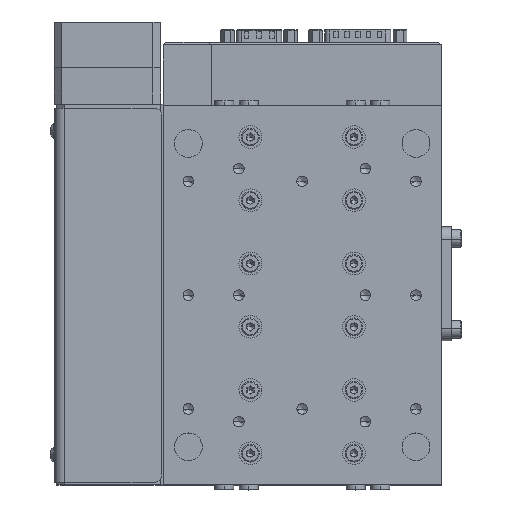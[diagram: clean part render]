
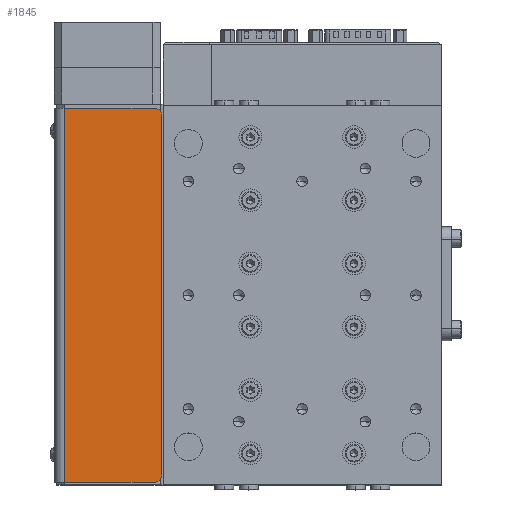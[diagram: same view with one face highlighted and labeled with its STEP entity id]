
A CAD part, top view. The second image highlights one B-rep face of the part: STEP entity #1845.
In plain terms, the highlighted planar face has unit normal (0, 0, 1).
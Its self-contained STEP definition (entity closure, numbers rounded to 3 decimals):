
#386 = ORIENTED_EDGE ( 'NONE', *, *, #51272, .F. ) ;
#1026 = ORIENTED_EDGE ( 'NONE', *, *, #45390, .F. ) ;
#1677 = CARTESIAN_POINT ( 'NONE',  ( -94., -133.391, 41.1 ) ) ;
#1845 = ADVANCED_FACE ( 'NONE', ( #7844 ), #43586, .F. ) ;
#3528 = LINE ( 'NONE', #41320, #36305 ) ;
#4087 = VERTEX_POINT ( 'NONE', #41196 ) ;
#4611 = CARTESIAN_POINT ( 'NONE',  ( -94., -133.391, 41.1 ) ) ;
#6754 = EDGE_CURVE ( 'NONE', #55000, #34645, #3528, .T. ) ;
#7795 = ORIENTED_EDGE ( 'NONE', *, *, #45632, .T. ) ;
#7844 = FACE_OUTER_BOUND ( 'NONE', #32261, .T. ) ;
#8050 = VECTOR ( 'NONE', #35324, 1000. ) ;
#8919 = EDGE_CURVE ( 'NONE', #34645, #48581, #13041, .T. ) ;
#8953 = DIRECTION ( 'NONE',  ( -1., 0., 0. ) ) ;
#9088 = ORIENTED_EDGE ( 'NONE', *, *, #6754, .T. ) ;
#9449 = VERTEX_POINT ( 'NONE', #48599 ) ;
#9910 = DIRECTION ( 'NONE',  ( -1., 0., 0. ) ) ;
#13041 = CIRCLE ( 'NONE', #46314, 3. ) ;
#13420 = EDGE_CURVE ( 'NONE', #54723, #48581, #28498, .T. ) ;
#13545 = CARTESIAN_POINT ( 'NONE',  ( -94., 74., 41.1 ) ) ;
#17689 = CARTESIAN_POINT ( 'NONE',  ( -58.5, 74., 41.1 ) ) ;
#19670 = DIRECTION ( 'NONE',  ( 0., 1., 0. ) ) ;
#22453 = DIRECTION ( 'NONE',  ( 0., 0., -1. ) ) ;
#22875 = CIRCLE ( 'NONE', #35084, 3. ) ;
#23473 = LINE ( 'NONE', #40293, #51656 ) ;
#25019 = CARTESIAN_POINT ( 'NONE',  ( -55.5, 71., 41.1 ) ) ;
#25471 = DIRECTION ( 'NONE',  ( -1., 0., 0. ) ) ;
#26763 = DIRECTION ( 'NONE',  ( -1., 0., 0. ) ) ;
#28498 = LINE ( 'NONE', #13545, #8050 ) ;
#32261 = EDGE_LOOP ( 'NONE', ( #386, #7795, #9088, #38873, #53543, #1026 ) ) ;
#34595 = VECTOR ( 'NONE', #41606, 1000. ) ;
#34645 = VERTEX_POINT ( 'NONE', #25019 ) ;
#35084 = AXIS2_PLACEMENT_3D ( 'NONE', #47191, #52185, #25471 ) ;
#35208 = DIRECTION ( 'NONE',  ( 0., 0., 1. ) ) ;
#35324 = DIRECTION ( 'NONE',  ( 1., 0., 0. ) ) ;
#36305 = VECTOR ( 'NONE', #19670, 1000. ) ;
#37505 = CARTESIAN_POINT ( 'NONE',  ( -94., 74., 41.1 ) ) ;
#38873 = ORIENTED_EDGE ( 'NONE', *, *, #8919, .T. ) ;
#40072 = LINE ( 'NONE', #1677, #34595 ) ;
#40293 = CARTESIAN_POINT ( 'NONE',  ( -94., -74., 41.1 ) ) ;
#41196 = CARTESIAN_POINT ( 'NONE',  ( -94., -74., 41.1 ) ) ;
#41320 = CARTESIAN_POINT ( 'NONE',  ( -55.5, -133.391, 41.1 ) ) ;
#41606 = DIRECTION ( 'NONE',  ( 0., 1., 0. ) ) ;
#43586 = PLANE ( 'NONE',  #48853 ) ;
#45390 = EDGE_CURVE ( 'NONE', #4087, #54723, #40072, .T. ) ;
#45632 = EDGE_CURVE ( 'NONE', #9449, #55000, #22875, .T. ) ;
#46314 = AXIS2_PLACEMENT_3D ( 'NONE', #48091, #35208, #26763 ) ;
#47191 = CARTESIAN_POINT ( 'NONE',  ( -58.5, -71., 41.1 ) ) ;
#48091 = CARTESIAN_POINT ( 'NONE',  ( -58.5, 71., 41.1 ) ) ;
#48581 = VERTEX_POINT ( 'NONE', #17689 ) ;
#48599 = CARTESIAN_POINT ( 'NONE',  ( -58.5, -74., 41.1 ) ) ;
#48658 = CARTESIAN_POINT ( 'NONE',  ( -55.5, -71., 41.1 ) ) ;
#48853 = AXIS2_PLACEMENT_3D ( 'NONE', #4611, #22453, #8953 ) ;
#51272 = EDGE_CURVE ( 'NONE', #9449, #4087, #23473, .T. ) ;
#51656 = VECTOR ( 'NONE', #9910, 1000. ) ;
#52185 = DIRECTION ( 'NONE',  ( 0., 0., 1. ) ) ;
#53543 = ORIENTED_EDGE ( 'NONE', *, *, #13420, .F. ) ;
#54723 = VERTEX_POINT ( 'NONE', #37505 ) ;
#55000 = VERTEX_POINT ( 'NONE', #48658 ) ;
